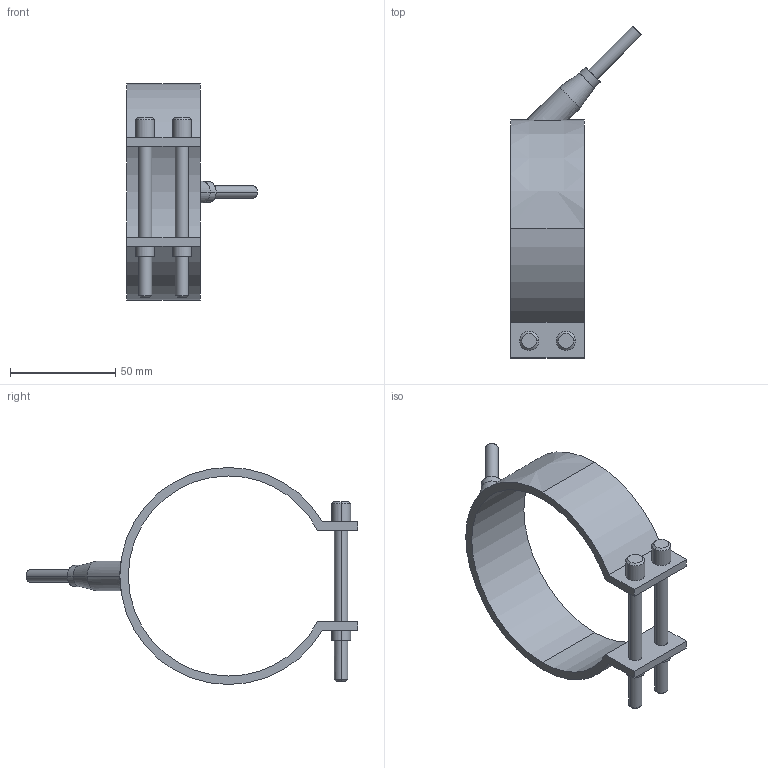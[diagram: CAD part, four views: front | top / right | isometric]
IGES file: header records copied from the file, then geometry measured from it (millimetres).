
Start section: START RECORD GO HERE.
Global section: file name: 29095035.igs; native system: DASSAULT SYSTEMES CATIA V5 R20 - www.3ds.com; preprocessor: CATIA Version 5 Release 20 ; author: Utente; organization: NB04-ASUS; date: 20210329.195402; units: millimetre
Bounding box: 62.05 x 157.55 x 103 mm (x, y, z)
Surface area: 28291.7 mm2 (no closed solid volume)
Topology: 0 solids, 0 shells, 54 faces, 246 edges, 246 vertices
Faces by surface type: revolution 38, plane 16
